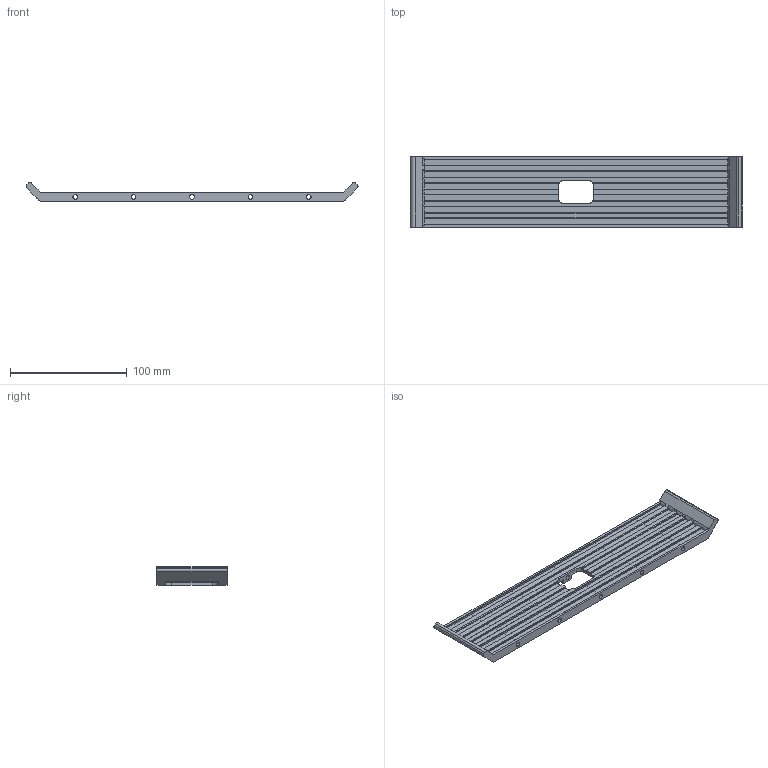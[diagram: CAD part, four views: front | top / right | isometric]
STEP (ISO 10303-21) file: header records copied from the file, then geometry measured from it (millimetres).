
FILE_DESCRIPTION (( 'STEP AP214' ), '1' );
FILE_NAME ('Ç°µ²°å-2.STEP', '2024-05-30T01:43:51', ( 'China' ), ( 'Microsoft' ), 'SwSTEP 2.0', 'SolidWorks 2021', '' );
FILE_SCHEMA (( 'AUTOMOTIVE_DESIGN' ));
Length unit declared in the file: millimetre
Products named in the file (1): ヶ結啣-2
Bounding box: 284.37 x 60 x 16.26 mm (x, y, z)
Volume: 79174 mm3; surface area: 49380.8 mm2
Topology: 1 solids, 1 shells, 147 faces, 432 edges, 288 vertices
Faces by surface type: plane 93, cylinder 54
Entity records: 4964 total; most frequent: CARTESIAN_POINT 940, ORIENTED_EDGE 864, DIRECTION 820, EDGE_CURVE 432, VECTOR 292, LINE 292, VERTEX_POINT 288, AXIS2_PLACEMENT_3D 264
